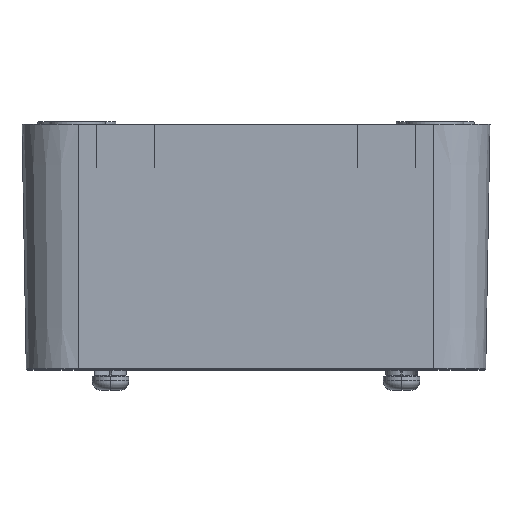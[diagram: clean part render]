
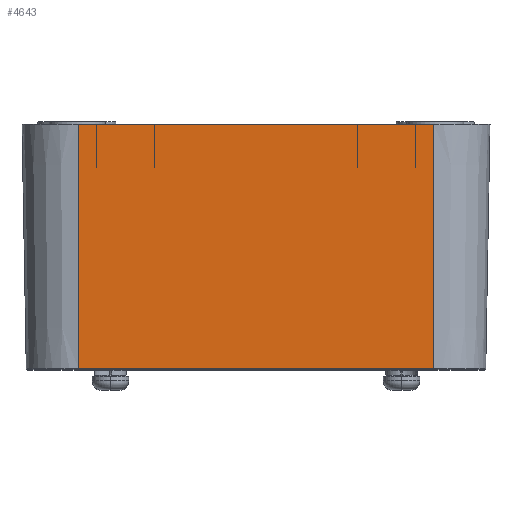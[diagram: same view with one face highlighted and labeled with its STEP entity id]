
A CAD part, top view. The second image highlights one B-rep face of the part: STEP entity #4643.
In plain terms, the highlighted planar face has unit normal (0, -0.018, 1).
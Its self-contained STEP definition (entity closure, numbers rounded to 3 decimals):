
#52 = DIRECTION ( 'NONE',  ( 0., -0.017, 1. ) ) ;
#504 = EDGE_CURVE ( 'NONE', #13579, #4120, #9740, .T. ) ;
#687 = CARTESIAN_POINT ( 'NONE',  ( -34., 0.197, 44.003 ) ) ;
#1354 = LINE ( 'NONE', #5570, #9558 ) ;
#1483 = EDGE_CURVE ( 'NONE', #4349, #13579, #8063, .T. ) ;
#2143 = PLANE ( 'NONE',  #4622 ) ;
#2326 = VECTOR ( 'NONE', #10141, 1000. ) ;
#3725 = CARTESIAN_POINT ( 'NONE',  ( 34., 47., 44.82 ) ) ;
#4120 = VERTEX_POINT ( 'NONE', #4140 ) ;
#4140 = CARTESIAN_POINT ( 'NONE',  ( 34., 0.197, 44.003 ) ) ;
#4349 = VERTEX_POINT ( 'NONE', #9890 ) ;
#4383 = VECTOR ( 'NONE', #10496, 1000. ) ;
#4622 = AXIS2_PLACEMENT_3D ( 'NONE', #6463, #52, #7558 ) ;
#4643 = ADVANCED_FACE ( 'NONE', ( #5872 ), #2143, .T. ) ;
#5570 = CARTESIAN_POINT ( 'NONE',  ( -34., 47., 44.82 ) ) ;
#5673 = LINE ( 'NONE', #9876, #11010 ) ;
#5872 = FACE_OUTER_BOUND ( 'NONE', #9028, .T. ) ;
#5903 = ORIENTED_EDGE ( 'NONE', *, *, #504, .T. ) ;
#6463 = CARTESIAN_POINT ( 'NONE',  ( -34., 0., 44. ) ) ;
#6955 = ORIENTED_EDGE ( 'NONE', *, *, #10179, .F. ) ;
#7193 = CARTESIAN_POINT ( 'NONE',  ( -34., 0.197, 44.003 ) ) ;
#7558 = DIRECTION ( 'NONE',  ( 0., -1., -0.017 ) ) ;
#8063 = LINE ( 'NONE', #12082, #2326 ) ;
#9028 = EDGE_LOOP ( 'NONE', ( #11665, #5903, #6955, #11694 ) ) ;
#9150 = EDGE_CURVE ( 'NONE', #4349, #10990, #1354, .T. ) ;
#9558 = VECTOR ( 'NONE', #13077, 1000. ) ;
#9740 = LINE ( 'NONE', #7193, #4383 ) ;
#9876 = CARTESIAN_POINT ( 'NONE',  ( 34., 0., 44. ) ) ;
#9890 = CARTESIAN_POINT ( 'NONE',  ( -34., 47., 44.82 ) ) ;
#10141 = DIRECTION ( 'NONE',  ( 0., -1., -0.017 ) ) ;
#10179 = EDGE_CURVE ( 'NONE', #10990, #4120, #5673, .T. ) ;
#10496 = DIRECTION ( 'NONE',  ( 1., 0., 0. ) ) ;
#10990 = VERTEX_POINT ( 'NONE', #3725 ) ;
#11010 = VECTOR ( 'NONE', #12038, 1000. ) ;
#11665 = ORIENTED_EDGE ( 'NONE', *, *, #1483, .T. ) ;
#11694 = ORIENTED_EDGE ( 'NONE', *, *, #9150, .F. ) ;
#12038 = DIRECTION ( 'NONE',  ( 0., -1., -0.017 ) ) ;
#12082 = CARTESIAN_POINT ( 'NONE',  ( -34., 0., 44. ) ) ;
#13077 = DIRECTION ( 'NONE',  ( 1., 0., 0. ) ) ;
#13579 = VERTEX_POINT ( 'NONE', #687 ) ;
